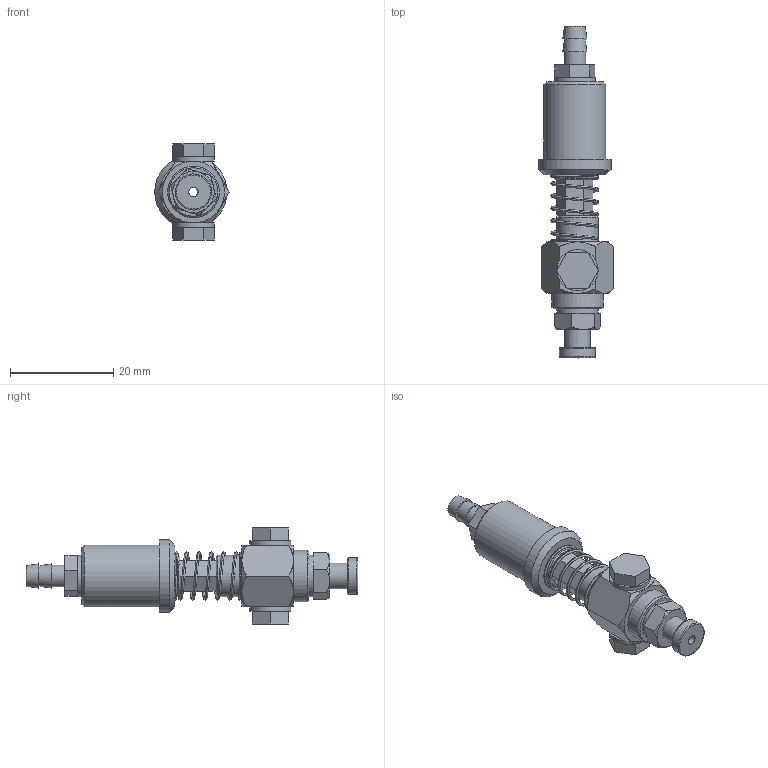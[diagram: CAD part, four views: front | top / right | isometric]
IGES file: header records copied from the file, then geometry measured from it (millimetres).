
Start section: SolidWorks IGES file using analytic representation for surfaces
Global section: file name: C:\Users\STAR079\Desktop\211042\ネット記載用\211042.IGS; native system: SolidWorks 2013; preprocessor: SolidWorks 2013; author: STAR079; date: 140904.093204; units: millimetre
Bounding box: 14.44 x 64.3 x 18.6 mm (x, y, z)
Surface area: 5530.2 mm2 (no closed solid volume)
Topology: 0 solids, 0 shells, 207 faces, 1041 edges, 957 vertices
Faces by surface type: bspline 124, revolution 83
